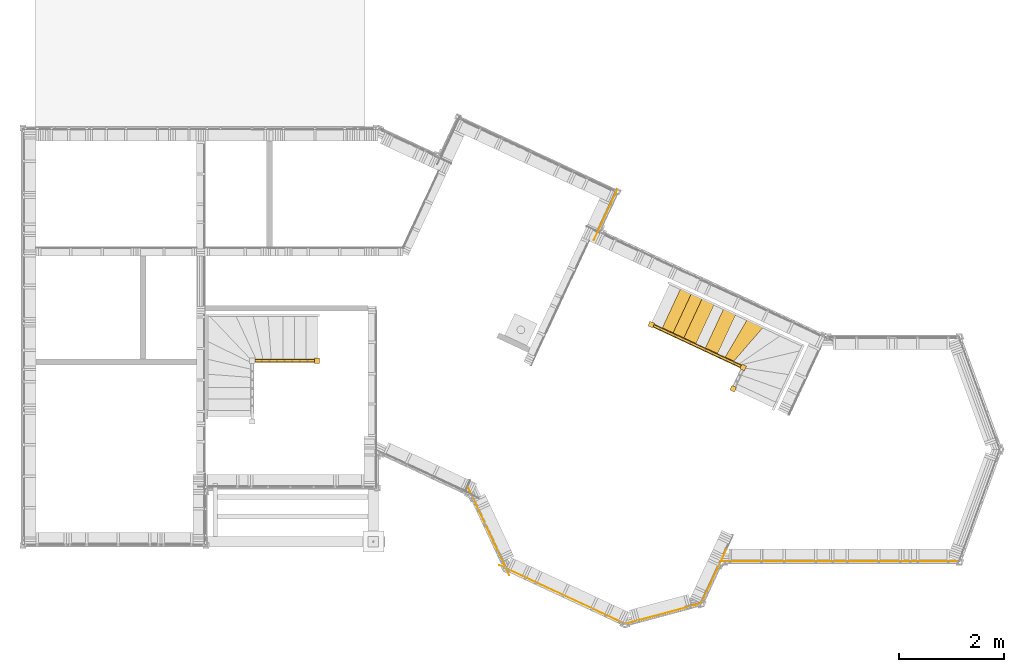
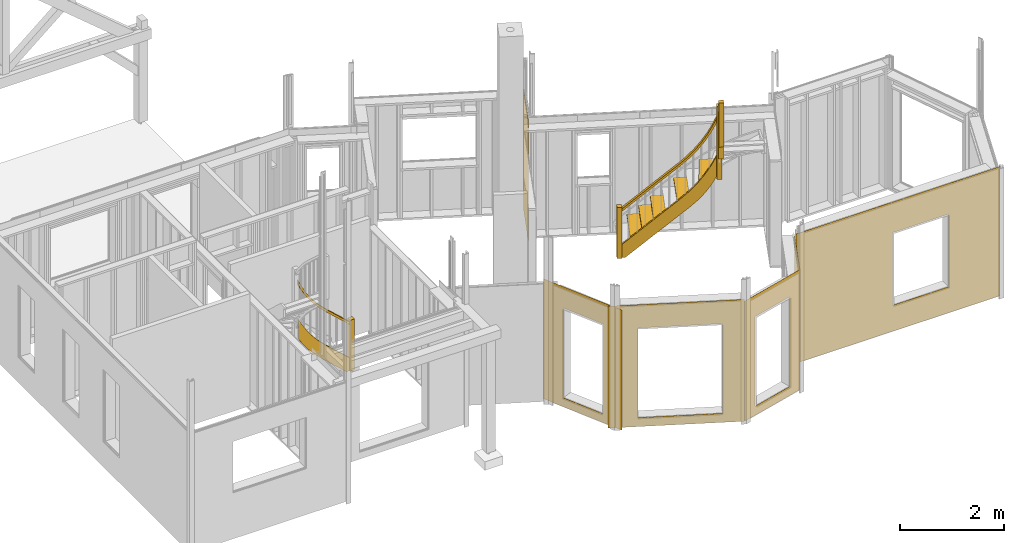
# One storey, part 30 of 34: 19 curtain walls.
"""IFC2X3 building model written with IfcOpenShell, lengths in metres."""

from ifc_helpers import new_model, si_unit, direction, frame, origin_with_axes, place, context, subcontext, project, spatial, faceted_brep, material, element, save


model = new_model("IFC2X3")

# Units and contexts
model_context = context("Model", 3, precision=1e-06, world=origin_with_axes(), true_north=direction((0.0, 1.0, 0.0)))
body_context = subcontext(model_context, "Body", "Model", "MODEL_VIEW")
ifc_project = project(units=[si_unit("LENGTHUNIT", "METRE"), si_unit("AREAUNIT", "SQUARE_METRE"), si_unit("VOLUMEUNIT", "CUBIC_METRE"), si_unit("PLANEANGLEUNIT", "RADIAN")], contexts=[model_context])

# Site, building, storey
site_placement = place(None, origin_with_axes())
site = spatial("IfcSite", under=ifc_project, at=site_placement, CompositionType="ELEMENT")
building_placement = place(site_placement, origin_with_axes())
building = spatial("IfcBuilding", under=site, at=building_placement, Name="Building 1", CompositionType="ELEMENT")
storey_placement = place(building_placement, origin_with_axes())
storey = spatial("IfcBuildingStorey", under=building, at=storey_placement, Name="Rez de chaussée", CompositionType="ELEMENT", Elevation=0.0)

# Curtain walls
ifc_material_1 = material(Name="NH II")
curtain_wall_1_placement = place(storey_placement, frame((13.5018839, 2.964515, 2.6699578), z_axis=(0.0, 0.0, 1.0), x_axis=(-0.9063078, 0.4226183, 0.0)))
element("IfcCurtainWall", 1, at=curtain_wall_1_placement, inside=storey, material=ifc_material_1, Name="Escalier", context=body_context, shape_type="Brep", body=[
    faceted_brep([(-0.0485, 0.0025, 0.0), (-0.0485, 0.0025, 0.3110422), (0.0485, 0.0025, 0.3110422), (0.0485, 0.0025, 0.0), (-0.0485, 0.0485, 0.3110422), (0.0485, 0.0485, 0.3110422), (0.0485, -0.0485, 1.3482562), (-0.0485, -0.0485, 1.3482562), (-0.0485, -0.0485, 0.0), (0.0485, -0.0485, 0.0), (0.0485, 0.0485, 1.3482562), (-0.0485, 0.0485, 1.3482562)], [[[0, 1, 2, 3]], [[1, 4, 5, 2]], [[6, 7, 8, 9]], [[10, 11, 7, 6]], [[0, 3, 9, 8]], [[3, 2, 5, 10, 6, 9]], [[1, 0, 8, 7, 11, 4]], [[5, 4, 11, 10]]]),
])
curtain_wall_2_placement = place(storey_placement, frame((13.7164795, 3.3584628, 3.281232), z_axis=(-0.6046222, 0.28194, -0.7449442), x_axis=(-0.4226183, -0.9063078, 0.0)))
element("IfcCurtainWall", 2, at=curtain_wall_2_placement, inside=storey, material=ifc_material_1, Name="Escalier", context=body_context, shape_type="Brep", body=[
    faceted_brep([(-0.034, 0.1026925, 0.0), (0.034, 0.1026925, 0.0), (-0.034, 0.0255875, 0.086099), (0.034, 0.0255875, 0.086099), (-0.034, 0.0759733, 2.7778893), (-0.034, -0.0970856, 1.2737513), (0.034, 0.0759733, 2.7778893), (0.034, -0.0970856, 1.2737513), (0.034, 0.1152207, 2.7340639), (0.034, -0.0533707, 1.2687219), (-0.034, 0.1152207, 2.7340639), (-0.034, -0.0533707, 1.2687219), (0.034, -0.0401927, 0.3175439), (-0.034, -0.0401927, 0.3175439), (0.034, -0.0856152, 0.5538288), (-0.034, -0.0856152, 0.5538288), (0.034, -0.1103365, 0.7931666), (-0.034, -0.1103365, 0.7931666), (0.034, -0.1141696, 1.0337473), (-0.034, -0.1141696, 1.0337473), (0.034, 0.0350894, 0.2040935), (0.034, -0.0161989, 0.4128849), (0.034, -0.0508525, 0.6250722), (0.034, -0.0686554, 0.8393323), (0.034, -0.0694965, 1.0543291), (-0.034, 0.0350894, 0.2040935), (-0.034, -0.0161989, 0.4128849), (-0.034, -0.0508525, 0.6250722), (-0.034, -0.0686554, 0.8393323), (-0.034, -0.0694965, 1.0543291)], [[[0, 1, 2]], [[2, 1, 3]], [[4, 5, 6]], [[6, 5, 7]], [[8, 9, 10]], [[10, 9, 11]], [[8, 10, 6]], [[6, 10, 4]], [[3, 12, 2]], [[2, 12, 13]], [[12, 14, 13]], [[13, 14, 15]], [[14, 16, 15]], [[15, 16, 17]], [[16, 18, 17]], [[17, 18, 19]], [[18, 7, 19]], [[19, 7, 5]], [[1, 20, 3]], [[3, 20, 12]], [[20, 21, 12]], [[12, 21, 14]], [[21, 22, 14]], [[14, 22, 16]], [[22, 23, 16]], [[16, 23, 18]], [[23, 24, 18]], [[18, 24, 7]], [[24, 9, 7]], [[7, 9, 8]], [[7, 8, 6]], [[0, 2, 25]], [[25, 2, 13]], [[25, 13, 26]], [[26, 13, 15]], [[26, 15, 27]], [[27, 15, 17]], [[27, 17, 28]], [[28, 17, 19]], [[28, 19, 29]], [[29, 19, 5]], [[29, 5, 11]], [[11, 5, 10]], [[5, 4, 10]], [[0, 25, 1]], [[1, 25, 20]], [[25, 26, 20]], [[20, 26, 21]], [[26, 27, 21]], [[21, 27, 22]], [[27, 28, 22]], [[22, 28, 23]], [[28, 29, 23]], [[23, 29, 24]], [[29, 11, 24]], [[24, 11, 9]]]),
])
curtain_wall_3_placement = place(storey_placement, frame((5.5368749, 3.4987176, 0.1757126), z_axis=(-0.6390929, 0.0, 0.7691296), x_axis=(0.0, 1.0, 0.0)))
element("IfcCurtainWall", 3, at=curtain_wall_3_placement, inside=storey, material=ifc_material_1, Name="Escalier", context=body_context, shape_type="Brep", body=[
    faceted_brep([(0.0205, 0.0597896, 0.0422536), (0.0205, 0.0089385, 0.0), (-0.0205, 0.0597896, 0.0422536), (-0.0205, 0.0089385, 0.0), (-0.0205, -0.1873786, 0.236262), (0.0045, -0.0995705, 0.1305874), (0.0205, -0.0995705, 0.1305874), (0.0045, -0.1193824, 0.1544305), (0.0205, -0.1873786, 0.236262), (0.0205, -0.1193824, 0.1544305), (0.0205, -0.0625971, 0.683422), (0.0205, -0.0824089, 0.7072651), (0.0205, -0.1228166, 0.412633), (0.0205, -0.1030047, 0.38879), (0.0205, 0.0285751, 0.2773727), (0.0205, 0.0887977, 0.5481644), (0.0205, 0.048387, 0.2535297), (0.0205, 0.0689859, 0.5720074), (0.0205, 0.162394, 0.7904186), (0.0205, 0.1292008, 0.8427926), (0.0205, 0.1824605, 0.993793), (0.0205, 0.1093889, 0.8666356), (0.0205, -0.0221932, 0.9780509), (0.0205, -0.0870854, 0.9675727), (0.0205, 0.145645, 1.1175128), (0.0205, 0.1870579, 1.1981032), (0.0205, 0.1258331, 1.1413558), (0.0205, -0.005817, 1.2527146), (0.0205, -0.0698263, 1.1348125), (0.0205, -0.0256289, 1.2765576), (0.0205, -0.0637909, 1.302832), (0.0205, 0.1187103, 1.3964934), (0.0205, -0.0690062, 1.470879), (0.0205, -0.0134707, 1.507411), (0.0205, -0.0332826, 1.531254), (0.0205, -0.0420051, 1.0018939), (0.0205, 0.1385222, 1.3726504), (0.0205, 0.1761597, 1.4021744), (0.0205, 0.1498286, 1.604833), (0.0205, 0.108647, 1.6088822), (0.0205, 0.0888351, 1.6327253), (0.0205, -0.0854488, 1.638201), (0.0205, -0.0451543, 1.7421403), (0.0205, 0.0026971, 1.7819015), (0.0205, -0.0649662, 1.7659833), (0.0205, -0.113045, 1.8040487), (0.0205, -0.0171148, 1.8057445), (0.0205, -0.1516714, 1.9676793), (0.0045, -0.0171148, 1.8057445), (0.0045, -0.06497, 1.7659801), (0.0045, 0.0026971, 1.7819015), (0.0045, -0.0451582, 1.7421371), (0.0204893, -0.0451582, 1.7421371), (0.0204893, -0.06497, 1.7659801), (-0.0205, -0.1516714, 1.9676793), (-0.0205, 0.1498286, 1.604833), (0.0045, 0.1028819, 1.6040919), (0.0045, -0.0134707, 1.507411), (0.0045, 0.08307, 1.6279349), (0.0045, -0.0332826, 1.531254), (0.0045, 0.1357021, 1.370307), (0.0045, -0.005817, 1.2527146), (0.0045, 0.1158902, 1.39415), (0.0045, -0.0256289, 1.2765576), (0.0045, 0.1248931, 1.1405747), (0.0045, -0.0420051, 1.0018939), (0.0045, 0.144705, 1.1167316), (0.0045, -0.0221932, 0.9780509), (0.0045, 0.1093889, 0.8666356), (0.0045, 0.1292008, 0.8427926), (0.0045, -0.0625971, 0.683422), (0.0045, -0.0824089, 0.7072651), (0.0045, 0.0689859, 0.5720074), (0.0045, 0.0887977, 0.5481644), (0.0045, -0.1030047, 0.38879), (0.0045, -0.1228166, 0.412633), (0.0045, 0.0285751, 0.2773727), (0.0045, 0.048387, 0.2535297), (-0.0205, -0.0870854, 0.9675727), (-0.0205, 0.162394, 0.7904186), (-0.0205, -0.113045, 1.8040487), (-0.0205, -0.0854488, 1.638201), (-0.0205, -0.0690062, 1.470879), (-0.0205, -0.0637909, 1.302832), (-0.0205, -0.0698263, 1.1348125), (-0.0205, 0.1824605, 0.993793), (-0.0205, 0.1870579, 1.1981032), (-0.0205, 0.1761597, 1.4021744)], [[[0, 1, 2]], [[2, 1, 3]], [[4, 3, 5]], [[5, 3, 1]], [[5, 1, 6]], [[5, 7, 4]], [[4, 7, 8]], [[7, 9, 8]], [[10, 11, 12]], [[12, 11, 8]], [[12, 8, 13]], [[13, 8, 14]], [[13, 14, 15]], [[15, 14, 16]], [[15, 16, 0]], [[0, 16, 6]], [[0, 6, 1]], [[12, 17, 10]], [[10, 17, 18]], [[10, 18, 19]], [[19, 18, 20]], [[19, 20, 21]], [[21, 20, 22]], [[21, 22, 11]], [[11, 22, 23]], [[11, 23, 8]], [[17, 15, 18]], [[18, 15, 0]], [[22, 20, 24]], [[24, 20, 25]], [[24, 25, 26]], [[26, 25, 27]], [[26, 27, 28]], [[28, 27, 29]], [[28, 29, 30]], [[30, 29, 31]], [[30, 31, 32]], [[32, 31, 33]], [[32, 33, 34]], [[22, 35, 23]], [[23, 35, 28]], [[35, 26, 28]], [[27, 25, 36]], [[36, 25, 37]], [[36, 37, 31]], [[31, 37, 38]], [[31, 38, 39]], [[39, 38, 40]], [[32, 34, 41]], [[41, 34, 40]], [[41, 40, 42]], [[42, 40, 43]], [[39, 33, 31]], [[38, 43, 40]], [[42, 44, 41]], [[41, 44, 45]], [[44, 46, 45]], [[45, 46, 47]], [[8, 9, 14]], [[48, 49, 50]], [[50, 49, 51]], [[43, 50, 42]], [[42, 50, 51]], [[46, 44, 48]], [[48, 44, 49]], [[52, 51, 53]], [[53, 51, 49]], [[46, 48, 47]], [[47, 48, 54]], [[48, 50, 54]], [[54, 50, 55]], [[43, 38, 50]], [[50, 38, 55]], [[39, 56, 33]], [[33, 56, 57]], [[40, 34, 58]], [[58, 34, 59]], [[58, 59, 56]], [[56, 59, 57]], [[33, 57, 34]], [[34, 57, 59]], [[40, 58, 39]], [[39, 58, 56]], [[36, 60, 27]], [[27, 60, 61]], [[31, 29, 62]], [[62, 29, 63]], [[62, 63, 60]], [[60, 63, 61]], [[27, 61, 29]], [[29, 61, 63]], [[31, 62, 36]], [[36, 62, 60]], [[26, 35, 64]], [[64, 35, 65]], [[26, 64, 24]], [[24, 64, 66]], [[24, 66, 22]], [[22, 66, 67]], [[64, 65, 66]], [[66, 65, 67]], [[22, 67, 35]], [[35, 67, 65]], [[21, 68, 19]], [[19, 68, 69]], [[10, 19, 70]], [[70, 19, 69]], [[11, 10, 71]], [[71, 10, 70]], [[21, 11, 68]], [[68, 11, 71]], [[70, 69, 71]], [[71, 69, 68]], [[17, 72, 15]], [[15, 72, 73]], [[13, 15, 74]], [[74, 15, 73]], [[74, 73, 75]], [[75, 73, 72]], [[13, 74, 12]], [[12, 74, 75]], [[17, 12, 72]], [[72, 12, 75]], [[14, 76, 16]], [[16, 76, 77]], [[6, 16, 5]], [[5, 16, 77]], [[5, 77, 7]], [[7, 77, 76]], [[14, 9, 76]], [[76, 9, 7]], [[8, 23, 4]], [[4, 23, 78]], [[2, 79, 0]], [[0, 79, 18]], [[54, 80, 47]], [[47, 80, 45]], [[80, 81, 45]], [[45, 81, 41]], [[81, 82, 41]], [[41, 82, 32]], [[82, 83, 32]], [[32, 83, 30]], [[83, 84, 30]], [[30, 84, 28]], [[84, 78, 28]], [[28, 78, 23]], [[3, 4, 2]], [[2, 4, 79]], [[4, 78, 79]], [[79, 78, 85]], [[78, 84, 85]], [[85, 84, 86]], [[84, 83, 86]], [[86, 83, 87]], [[83, 82, 87]], [[87, 82, 55]], [[82, 81, 55]], [[55, 81, 80]], [[55, 80, 54]], [[38, 37, 55]], [[55, 37, 87]], [[37, 25, 87]], [[87, 25, 86]], [[25, 20, 86]], [[86, 20, 85]], [[20, 18, 85]], [[85, 18, 79]]]),
])
curtain_wall_4_placement = place(storey_placement, frame((11.9416568, 4.1860762, 0.17), z_axis=(0.0, 0.0, 1.0), x_axis=(-0.4226183, -0.9063078, 0.0)))
element("IfcCurtainWall", 4, at=curtain_wall_4_placement, inside=storey, material=ifc_material_1, Name="Escalier", context=body_context, shape_type="Brep", body=[
    faceted_brep([(0.0485, -0.0485, 0.0), (0.0485, 0.0485, 0.0), (0.0485, 0.0485, 1.2013738), (0.0485, -0.0485, 1.2013738), (-0.0485, 0.0485, 0.0), (-0.0485, 0.0485, 1.2013738), (-0.0485, -0.0485, 0.0), (-0.0485, -0.0485, 1.2013738)], [[[0, 1, 2, 3]], [[1, 4, 5, 2]], [[1, 0, 6, 4]], [[2, 5, 7, 3]], [[6, 0, 3, 7]], [[4, 6, 7, 5]]]),
])
ifc_material_2 = material(Name="pare-pluie")
curtain_wall_5_placement = place(storey_placement, frame((10.2452564, -0.9535081, -0.06), z_axis=(0.0, 0.0, 1.0), x_axis=(-0.9063078, 0.4226183, 0.0)))
element("IfcCurtainWall", 5, at=curtain_wall_5_placement, inside=storey, material=ifc_material_2, Name="Pare-pluie", context=body_context, shape_type="Brep", body=[
    faceted_brep([(-1.3199484, 0.00045, 0.0), (-1.3210209, -0.00045, 0.0), (-1.3210209, -0.00045, 2.865), (-1.3199484, 0.00045, 2.865), (1.3210209, -0.00045, 0.0), (1.3210209, -0.00045, 2.865), (-0.8929195, -0.00045, 0.212), (-0.8929195, -0.00045, 2.32), (0.7470805, -0.00045, 2.32), (0.7470805, -0.00045, 0.212), (1.3210209, 0.00045, 0.0), (1.3210209, 0.00045, 2.865), (-0.8929195, 0.00045, 0.212), (0.7470805, 0.00045, 0.212), (0.7470805, 0.00045, 2.32), (-0.8929195, 0.00045, 2.32)], [[[0, 1, 2, 3]], [[2, 1, 4, 5], [6, 7, 8, 9]], [[1, 0, 10, 4]], [[4, 10, 11, 5]], [[0, 3, 11, 10], [12, 13, 14, 15]], [[3, 2, 5, 11]], [[9, 8, 14, 13]], [[6, 9, 13, 12]], [[7, 6, 12, 15]], [[8, 7, 15, 14]]]),
])
curtain_wall_6_placement = place(storey_placement, frame((13.0262706, 4.6231489, 0.957644), z_axis=(0.0, 0.0, 1.0), x_axis=(-0.4226183, -0.9063078, 0.0)))
element("IfcCurtainWall", 6, at=curtain_wall_6_placement, inside=storey, material=ifc_material_1, Name="Escalier", context=body_context, shape_type="Brep", body=[
    faceted_brep([(0.0, 0.128111, -0.0155), (0.0, -0.128111, -0.0155), (0.0, -0.128111, 0.0155), (0.0, 0.128111, 0.0155), (0.85, -0.128111, -0.0155), (0.85, 0.128111, -0.0155), (0.85, 0.128111, 0.0155), (0.85, -0.128111, 0.0155)], [[[0, 1, 2, 3]], [[4, 5, 6, 7]], [[1, 4, 7, 2]], [[2, 7, 6, 3]], [[0, 5, 4, 1]], [[5, 0, 3, 6]]]),
])
curtain_wall_7_placement = place(storey_placement, frame((13.1321259, -0.6112048, -0.06), z_axis=(0.0, 0.0, 1.0), x_axis=(-0.4226183, -0.9063078, 0.0)))
element("IfcCurtainWall", 7, at=curtain_wall_7_placement, inside=storey, material=ifc_material_2, Name="Pare-pluie", context=body_context, shape_type="Brep", body=[
    faceted_brep([(0.5638899, 0.00045, 0.0), (0.5638899, 0.00045, 2.823), (0.5646451, -0.00045, 2.823), (0.5646451, -0.00045, 0.0), (-0.5646451, 0.00045, 2.823), (-0.5646451, -0.00045, 2.823), (-0.5646451, 0.00045, 0.0), (-0.5646451, -0.00045, 0.0)], [[[0, 1, 2, 3]], [[2, 1, 4, 5]], [[1, 0, 6, 4]], [[0, 3, 7, 6]], [[3, 2, 5, 7]], [[5, 4, 6, 7]]]),
])
curtain_wall_8_placement = place(storey_placement, frame((5.5785, 3.4987176, 0.17), z_axis=(0.0, 0.0, 1.0), x_axis=(0.0, 1.0, 0.0)))
element("IfcCurtainWall", 8, at=curtain_wall_8_placement, inside=storey, material=ifc_material_1, Name="Escalier", context=body_context, shape_type="Brep", body=[
    faceted_brep([(0.0485, -0.0485, 0.0), (0.0485, 0.0485, 0.0), (0.0485, 0.0485, 1.2029516), (0.0485, -0.0485, 1.2029516), (-0.0485, 0.0485, 0.0), (-0.0485, 0.0485, 1.2029516), (-0.0485, -0.0485, 0.0), (-0.0485, -0.0485, 1.2029516)], [[[0, 1, 2, 3]], [[1, 4, 5, 2]], [[1, 0, 6, 4]], [[2, 5, 7, 3]], [[6, 0, 3, 7]], [[4, 6, 7, 5]]]),
])
curtain_wall_9_placement = place(storey_placement, frame((15.5382757, -0.32077, -0.06), z_axis=(0.0, 0.0, 1.0), x_axis=(-1.0, 0.0, 0.0)))
element("IfcCurtainWall", 9, at=curtain_wall_9_placement, inside=storey, material=ifc_material_2, Name="Pare-pluie", context=body_context, shape_type="Brep", body=[
    faceted_brep([(-2.2654725, -0.00045, 3.04), (-2.2651449, 0.00045, 3.04), (-2.2651449, 0.00045, 0.0), (-2.2654725, -0.00045, 0.0), (2.2654725, 0.00045, 3.04), (2.2654725, 0.00045, 0.0), (-1.1222608, 0.00045, 0.612), (0.1177392, 0.00045, 0.612), (0.1177392, 0.00045, 2.32), (-1.1222608, 0.00045, 2.32), (2.2654725, -0.00045, 3.04), (2.2654725, -0.00045, 0.0), (-1.1222608, -0.00045, 0.612), (-1.1222608, -0.00045, 2.32), (0.1177392, -0.00045, 2.32), (0.1177392, -0.00045, 0.612)], [[[0, 1, 2, 3]], [[2, 1, 4, 5], [6, 7, 8, 9]], [[1, 0, 10, 4]], [[0, 3, 11, 10], [12, 13, 14, 15]], [[3, 2, 5, 11]], [[11, 5, 4, 10]], [[15, 14, 8, 7]], [[12, 15, 7, 6]], [[13, 12, 6, 9]], [[14, 13, 9, 8]]]),
])
curtain_wall_10_placement = place(storey_placement, frame((13.4363214, 4.4319391, 1.359216), z_axis=(0.0, 0.0, 1.0), x_axis=(-0.4226183, -0.9063078, 0.0)))
element("IfcCurtainWall", 10, at=curtain_wall_10_placement, inside=storey, material=ifc_material_1, Name="Escalier", context=body_context, shape_type="Brep", body=[
    faceted_brep([(0.0, 0.12811, -0.0155), (0.0, -0.12811, -0.0155), (0.0, -0.12811, 0.0155), (0.0, 0.12811, 0.0155), (0.85, -0.12811, -0.0155), (0.85, 0.12811, -0.0155), (0.85, 0.12811, 0.0155), (0.85, -0.12811, 0.0155)], [[[0, 1, 2, 3]], [[4, 5, 6, 7]], [[1, 4, 7, 2]], [[2, 7, 6, 3]], [[0, 5, 4, 1]], [[5, 0, 3, 6]]]),
])
curtain_wall_11_placement = place(storey_placement, frame((13.9271053, 4.2204391, 1.760788), z_axis=(0.0, 0.0, 1.0), x_axis=(-0.506852, -0.8620331, 0.0)))
element("IfcCurtainWall", 11, at=curtain_wall_11_placement, inside=storey, material=ifc_material_1, Name="Escalier", context=body_context, shape_type="Brep", body=[
    faceted_brep([(0.86886, 0.0084593, -0.0155), (0.86886, 0.0084593, 0.0155), (0.8854694, -0.1654878, 0.0155), (0.8854694, -0.1654878, -0.0155), (0.0159276, 0.1670087, 0.0155), (0.0, 0.1654878, 0.0155), (0.0317485, -0.1670087, 0.0155), (0.0477898, -0.1670087, 0.0155), (0.8695419, -0.1670087, 0.0155), (0.0477898, -0.1670087, -0.0155), (0.0317485, -0.1670087, -0.0155), (0.047821, -0.1670057, 0.0155), (0.0, 0.1654878, -0.0155), (0.0159276, 0.1670087, -0.0155), (0.8695419, -0.1670087, -0.0155), (0.047821, -0.1670057, -0.0155)], [[[0, 1, 2, 3]], [[1, 4, 5, 6, 7, 8, 2]], [[9, 7, 6, 10]], [[7, 9, 11]], [[10, 6, 5, 12]], [[13, 12, 5, 4]], [[14, 3, 2, 8]], [[15, 14, 8, 11]], [[13, 0, 3, 14, 15, 10, 12]], [[0, 13, 4, 1]]]),
])
curtain_wall_12_placement = place(storey_placement, frame((5.4971274, 3.4987176, 1.2359951), z_axis=(-0.6390929, 0.0, 0.7691296), x_axis=(0.0, 1.0, 0.0)))
element("IfcCurtainWall", 12, at=curtain_wall_12_placement, inside=storey, material=ifc_material_1, Name="Escalier", context=body_context, shape_type="Brep", body=[
    faceted_brep([(-0.034, -0.0779608, 1.8167772), (0.034, -0.0779608, 1.8167772), (-0.034, -0.0070338, 1.7314186), (0.034, -0.0070338, 1.7314186), (-0.034, -0.04274, 0.0), (-0.034, 0.057557, 0.7313062), (0.034, -0.04274, 0.0), (0.034, 0.057557, 0.7313062), (0.034, -0.0808566, 0.0458722), (0.034, 0.0139628, 0.737286), (-0.034, -0.0808566, 0.0458722), (-0.034, 0.0139628, 0.737286), (0.034, 0.0315929, 1.567787), (-0.034, 0.0315929, 1.567787), (0.034, 0.0591897, 1.4019384), (-0.034, 0.0591897, 1.4019384), (0.034, 0.075633, 1.2346156), (-0.034, 0.075633, 1.2346156), (0.034, 0.0808491, 1.0665676), (-0.034, 0.0808491, 1.0665676), (0.034, 0.0748148, 0.898547), (-0.034, 0.0748148, 0.898547), (0.034, -0.029534, 1.6413314), (0.034, 0.0058344, 1.4627944), (0.034, 0.0279521, 1.2821367), (0.034, 0.0366989, 1.1003404), (0.034, 0.0320274, 0.9183938), (-0.034, -0.029534, 1.6413314), (-0.034, 0.0058344, 1.4627944), (-0.034, 0.0279521, 1.2821367), (-0.034, 0.0366989, 1.1003404), (-0.034, 0.0320274, 0.9183938)], [[[0, 1, 2]], [[2, 1, 3]], [[4, 5, 6]], [[6, 5, 7]], [[8, 9, 10]], [[10, 9, 11]], [[8, 10, 6]], [[6, 10, 4]], [[3, 12, 2]], [[2, 12, 13]], [[12, 14, 13]], [[13, 14, 15]], [[14, 16, 15]], [[15, 16, 17]], [[16, 18, 17]], [[17, 18, 19]], [[18, 20, 19]], [[19, 20, 21]], [[20, 7, 21]], [[21, 7, 5]], [[1, 22, 3]], [[3, 22, 12]], [[22, 23, 12]], [[12, 23, 14]], [[23, 24, 14]], [[14, 24, 16]], [[24, 25, 16]], [[16, 25, 18]], [[25, 26, 18]], [[18, 26, 20]], [[26, 9, 20]], [[20, 9, 7]], [[9, 8, 7]], [[7, 8, 6]], [[0, 2, 27]], [[27, 2, 13]], [[27, 13, 28]], [[28, 13, 15]], [[28, 15, 29]], [[29, 15, 17]], [[29, 17, 30]], [[30, 17, 19]], [[30, 19, 31]], [[31, 19, 21]], [[31, 21, 11]], [[11, 21, 5]], [[11, 5, 10]], [[10, 5, 4]], [[0, 27, 1]], [[1, 27, 22]], [[27, 28, 22]], [[22, 28, 23]], [[28, 29, 23]], [[23, 29, 24]], [[29, 30, 24]], [[24, 30, 25]], [[30, 31, 25]], [[25, 31, 26]], [[31, 11, 26]], [[26, 11, 9]]]),
])
curtain_wall_13_placement = place(storey_placement, frame((12.1680099, -1.3175071, -0.06), z_axis=(0.0, 0.0, 1.0), x_axis=(-0.9659258, -0.258819, 0.0)))
element("IfcCurtainWall", 13, at=curtain_wall_13_placement, inside=storey, material=ifc_material_2, Name="Pare-pluie", context=body_context, shape_type="Brep", body=[
    faceted_brep([(-0.7500222, 0.00045, 0.0), (-0.7507774, -0.00045, 0.0), (-0.7507774, -0.00045, 2.823), (-0.7500222, 0.00045, 2.823), (0.7507774, -0.00045, 0.0), (0.7507774, -0.00045, 2.823), (-0.4700399, -0.00045, 0.212), (-0.4700399, -0.00045, 2.32), (0.4699601, -0.00045, 2.32), (0.4699601, -0.00045, 0.212), (0.7497048, 0.00045, 0.0), (0.7497048, 0.00045, 2.823), (0.4699601, 0.00045, 2.32), (-0.4700399, 0.00045, 2.32), (-0.4700399, 0.00045, 0.212), (0.4699601, 0.00045, 0.212)], [[[0, 1, 2, 3]], [[2, 1, 4, 5], [6, 7, 8, 9]], [[1, 0, 10, 4]], [[5, 4, 10, 11]], [[0, 3, 11, 10], [12, 13, 14, 15]], [[9, 8, 12, 15]], [[6, 9, 15, 14]], [[7, 6, 14, 13]], [[8, 7, 13, 12]], [[3, 2, 5, 11]]]),
])
curtain_wall_14_placement = place(storey_placement, frame((12.6162139, 4.8143615, 0.556072), z_axis=(0.0, 0.0, 1.0), x_axis=(-0.4226183, -0.9063078, 0.0)))
element("IfcCurtainWall", 14, at=curtain_wall_14_placement, inside=storey, material=ifc_material_1, Name="Escalier", context=body_context, shape_type="Brep", body=[
    faceted_brep([(0.0, 0.12811, -0.0155), (0.0, -0.12811, -0.0155), (0.0, -0.128111, 0.0155), (0.0, 0.1281085, 0.0155), (0.85, -0.1281085, -0.0155), (0.85, 0.12811, -0.0155), (0.85, 0.1281085, 0.0155), (0.85, -0.1281085, 0.0155)], [[[0, 1, 2, 3]], [[4, 5, 6, 7]], [[1, 4, 7, 2]], [[2, 7, 6, 3]], [[0, 5, 4, 1]], [[5, 0, 3, 6]]]),
])
curtain_wall_15_placement = place(storey_placement, frame((12.8212398, 4.7187564, 0.756858), z_axis=(0.0, 0.0, 1.0), x_axis=(-0.4226183, -0.9063078, 0.0)))
element("IfcCurtainWall", 15, at=curtain_wall_15_placement, inside=storey, material=ifc_material_1, Name="Escalier", context=body_context, shape_type="Brep", body=[
    faceted_brep([(0.0, 0.1281075, -0.0155), (0.0, -0.1281075, -0.0155), (0.0, -0.1281075, 0.0155), (0.0, 0.1281085, 0.0155), (0.85, -0.128111, -0.0155), (0.85, 0.1281075, -0.0155), (0.85, 0.1281085, 0.0155), (0.85, -0.128111, 0.0155)], [[[0, 1, 2, 3]], [[4, 5, 6, 7]], [[1, 4, 7, 2]], [[2, 7, 6, 3]], [[0, 5, 4, 1]], [[5, 0, 3, 6]]]),
])
curtain_wall_16_placement = place(storey_placement, frame((13.7687396, 3.3340936, 2.3263352), z_axis=(-0.6046222, 0.28194, -0.7449442), x_axis=(-0.4226183, -0.9063078, 0.0)))
element("IfcCurtainWall", 16, at=curtain_wall_16_placement, inside=storey, material=ifc_material_1, Name="Escalier", context=body_context, shape_type="Brep", body=[
    faceted_brep([(-0.0205, 0.0271011, 2.9188965), (-0.0205, -0.0236936, 2.8734078), (0.0205, 0.0271011, 2.9188965), (0.0205, -0.0236936, 2.8734078), (-0.0205, -0.2171122, 1.192336), (0.0205, -0.2171122, 1.192336), (-0.0205, 0.1403699, 2.7924154), (-0.0205, -0.0080379, 2.6595104), (-0.0205, -0.0426095, 2.3590186), (-0.0205, 0.012643, 2.6364171), (-0.0205, 0.1482579, 2.5299478), (-0.0205, 0.2304817, 2.6917923), (-0.0205, 0.1689388, 2.5068545), (-0.0205, 0.1343658, 2.2063614), (-0.0205, 0.1136848, 2.2294547), (-0.0205, 0.1610508, 2.7693221), (-0.0205, 0.099792, 1.9058676), (-0.0205, 0.0574246, 1.1876522), (-0.0205, 0.0652189, 1.6053745), (-0.0205, 0.0306473, 1.3048827), (-0.0205, 0.0099664, 1.327976), (-0.0205, -0.1658054, 0.85942), (-0.0205, 0.0403406, 0.9476483), (-0.0205, -0.0300866, 0.7530437), (-0.0205, 0.0441738, 0.7070676), (-0.0205, -0.0094057, 0.7299504), (-0.0205, -0.0064781, 0.5046545), (-0.0205, -0.1429903, 0.6103202), (-0.0205, -0.1913466, 0.561598), (-0.0205, -0.1636712, 0.6334135), (-0.0205, -0.2217397, 0.7705756), (-0.0205, 0.0688951, 0.4677298), (-0.0205, 0.0142029, 0.4815613), (-0.0205, 0.1280242, 0.0860434), (-0.0205, 0.000892, 0.2001093), (-0.0205, 0.1143176, 0.2314449), (-0.0205, 0.066909, 0.25923), (-0.0205, 0.046228, 0.2823233), (-0.0205, -0.093007, 0.3855506), (-0.0205, 0.1487051, 0.0629501), (-0.0205, 0.1800977, 0.0), (-0.0205, 0.1348417, 0.0505349), (-0.0205, 0.1141608, 0.0736282), (-0.0205, -0.0197889, 0.2232025), (-0.0205, -0.1395058, 0.3568839), (-0.0205, -0.1136879, 0.4086439), (-0.0205, -0.1864863, 0.8825133), (-0.0205, -0.230359, 0.9815757), (-0.0205, -0.0246126, 1.0274775), (-0.0205, -0.1602223, 1.1339515), (-0.0205, -0.1809032, 1.1570448), (-0.0205, -0.1256507, 1.4344433), (-0.0205, -0.077181, 2.0585268), (-0.0205, -0.1117601, 1.7580283), (-0.0205, -0.1463316, 1.4575366), (-0.0205, -0.0910791, 1.7349351), (-0.0205, 0.044538, 1.6284678), (-0.0205, -0.0039317, 1.0043843), (-0.0205, 0.079111, 1.9289609), (-0.0205, -0.0565001, 2.0354335), (-0.0205, -0.0219286, 2.3359253), (-0.0045, 0.1141608, 0.0736282), (-0.0045, 0.1280242, 0.0860434), (-0.0045, 0.1487051, 0.0629501), (-0.0045, 0.1348417, 0.0505349), (-0.0045, -0.0197889, 0.2232025), (-0.0045, 0.046228, 0.2823233), (-0.0045, 0.000892, 0.2001093), (-0.0045, 0.066909, 0.25923), (0.0205, 0.1800977, 0.0), (0.0205, -0.1395058, 0.3568839), (-0.0045, -0.1066343, 0.4149607), (-0.0045, -0.0064781, 0.5046545), (-0.0045, -0.0859534, 0.3918674), (-0.0045, 0.0142029, 0.4815613), (-0.0045, -0.1602569, 0.6364711), (-0.0045, -0.0300866, 0.7530437), (-0.0045, -0.139576, 0.6133779), (-0.0045, -0.0094057, 0.7299504), (-0.0045, -0.1853482, 0.8835325), (-0.0045, -0.0246126, 1.0274775), (-0.0045, -0.1646673, 0.8604392), (-0.0045, -0.0039317, 1.0043843), (-0.0045, -0.1809032, 1.1570448), (-0.0045, -0.1602223, 1.1339515), (-0.0045, 0.0306473, 1.3048827), (-0.0045, 0.0099664, 1.327976), (-0.0045, -0.1463316, 1.4575366), (-0.0045, -0.1256507, 1.4344433), (-0.0045, 0.0652189, 1.6053745), (-0.0045, 0.044538, 1.6284678), (-0.0045, -0.1117601, 1.7580283), (-0.0045, -0.0910791, 1.7349351), (-0.0045, 0.099792, 1.9058676), (-0.0045, 0.079111, 1.9289609), (-0.0045, -0.077181, 2.0585268), (-0.0045, -0.0565001, 2.0354335), (-0.0045, 0.1343658, 2.2063614), (-0.0045, 0.1136848, 2.2294547), (-0.0045, -0.0426095, 2.3590186), (-0.0045, -0.0219286, 2.3359253), (-0.0045, 0.1689388, 2.5068545), (-0.0045, 0.1482579, 2.5299478), (-0.0045, -0.0080379, 2.6595104), (-0.0045, 0.012643, 2.6364171), (-0.0045, 0.1610508, 2.7693221), (-0.0045, 0.1403699, 2.7924154), (0.0205, 0.2304817, 2.6917923), (0.0205, 0.0574246, 1.1876522), (0.0205, 0.1143176, 0.2314449), (0.0205, 0.0688951, 0.4677298), (0.0205, 0.0441738, 0.7070676), (0.0205, 0.0403406, 0.9476483), (0.0205, -0.230359, 0.9815757), (0.0205, -0.2217397, 0.7705756), (0.0205, -0.1913466, 0.561598)], [[[0, 1, 2]], [[2, 1, 3]], [[1, 4, 3]], [[3, 4, 5]], [[0, 6, 1]], [[1, 6, 7]], [[1, 7, 8]], [[8, 7, 9]], [[8, 9, 10]], [[10, 9, 11]], [[10, 11, 12]], [[12, 11, 13]], [[12, 13, 14]], [[9, 15, 11]], [[13, 11, 16]], [[16, 11, 17]], [[16, 17, 18]], [[18, 17, 19]], [[18, 19, 20]], [[21, 22, 23]], [[23, 22, 24]], [[23, 24, 25]], [[25, 24, 26]], [[25, 26, 27]], [[27, 26, 28]], [[27, 28, 29]], [[29, 28, 30]], [[29, 30, 23]], [[23, 30, 21]], [[24, 31, 26]], [[26, 31, 32]], [[33, 34, 35]], [[35, 34, 36]], [[35, 36, 31]], [[31, 36, 37]], [[31, 37, 32]], [[32, 37, 38]], [[33, 35, 39]], [[39, 35, 40]], [[39, 40, 41]], [[33, 42, 34]], [[37, 43, 38]], [[38, 43, 44]], [[38, 44, 45]], [[45, 44, 28]], [[45, 28, 26]], [[21, 30, 46]], [[46, 30, 47]], [[46, 47, 48]], [[48, 47, 49]], [[48, 49, 17]], [[17, 49, 19]], [[49, 47, 50]], [[50, 47, 4]], [[50, 4, 20]], [[20, 4, 51]], [[20, 51, 18]], [[1, 52, 4]], [[4, 52, 53]], [[4, 53, 54]], [[54, 53, 55]], [[54, 55, 56]], [[56, 55, 16]], [[56, 16, 18]], [[21, 57, 22]], [[22, 57, 17]], [[57, 48, 17]], [[54, 51, 4]], [[16, 58, 13]], [[13, 58, 59]], [[58, 53, 59]], [[59, 53, 52]], [[12, 14, 60]], [[60, 14, 52]], [[60, 52, 8]], [[8, 52, 1]], [[42, 33, 61]], [[61, 33, 62]], [[62, 33, 63]], [[63, 33, 39]], [[61, 62, 64]], [[64, 62, 63]], [[39, 41, 63]], [[63, 41, 64]], [[65, 66, 67]], [[67, 66, 68]], [[67, 68, 34]], [[34, 68, 36]], [[66, 37, 68]], [[68, 37, 36]], [[43, 37, 65]], [[65, 37, 66]], [[41, 40, 64]], [[64, 40, 69]], [[64, 69, 61]], [[61, 69, 67]], [[61, 67, 34]], [[69, 70, 67]], [[67, 70, 65]], [[70, 44, 65]], [[65, 44, 43]], [[34, 42, 61]], [[45, 26, 71]], [[71, 26, 72]], [[45, 71, 38]], [[38, 71, 73]], [[71, 72, 73]], [[73, 72, 74]], [[38, 73, 32]], [[32, 73, 74]], [[72, 26, 74]], [[74, 26, 32]], [[29, 23, 75]], [[75, 23, 76]], [[29, 75, 27]], [[27, 75, 77]], [[75, 76, 77]], [[77, 76, 78]], [[27, 77, 25]], [[25, 77, 78]], [[76, 23, 78]], [[78, 23, 25]], [[46, 48, 79]], [[79, 48, 80]], [[46, 79, 21]], [[21, 79, 81]], [[21, 81, 57]], [[57, 81, 82]], [[79, 80, 81]], [[81, 80, 82]], [[57, 82, 48]], [[48, 82, 80]], [[50, 83, 49]], [[49, 83, 84]], [[19, 49, 85]], [[85, 49, 84]], [[83, 86, 84]], [[84, 86, 85]], [[19, 85, 20]], [[20, 85, 86]], [[50, 20, 83]], [[83, 20, 86]], [[54, 87, 51]], [[51, 87, 88]], [[18, 51, 89]], [[89, 51, 88]], [[87, 90, 88]], [[88, 90, 89]], [[18, 89, 56]], [[56, 89, 90]], [[54, 56, 87]], [[87, 56, 90]], [[53, 91, 55]], [[55, 91, 92]], [[16, 55, 93]], [[93, 55, 92]], [[91, 94, 92]], [[92, 94, 93]], [[16, 93, 58]], [[58, 93, 94]], [[53, 58, 91]], [[91, 58, 94]], [[52, 95, 59]], [[59, 95, 96]], [[13, 59, 97]], [[97, 59, 96]], [[95, 98, 96]], [[96, 98, 97]], [[13, 97, 14]], [[14, 97, 98]], [[52, 14, 95]], [[95, 14, 98]], [[8, 99, 60]], [[60, 99, 100]], [[12, 60, 101]], [[101, 60, 100]], [[99, 102, 100]], [[100, 102, 101]], [[12, 101, 10]], [[10, 101, 102]], [[8, 10, 99]], [[99, 10, 102]], [[7, 103, 9]], [[9, 103, 104]], [[15, 9, 105]], [[105, 9, 104]], [[105, 104, 106]], [[106, 104, 103]], [[7, 6, 103]], [[103, 6, 106]], [[107, 108, 11]], [[11, 108, 17]], [[6, 0, 106]], [[106, 0, 2]], [[106, 2, 107]], [[106, 107, 105]], [[105, 107, 11]], [[105, 11, 15]], [[40, 35, 69]], [[69, 35, 109]], [[35, 31, 109]], [[109, 31, 110]], [[31, 24, 110]], [[110, 24, 111]], [[24, 22, 111]], [[111, 22, 112]], [[22, 17, 112]], [[112, 17, 108]], [[2, 3, 107]], [[107, 3, 5]], [[107, 5, 108]], [[108, 5, 113]], [[108, 113, 112]], [[112, 113, 114]], [[112, 114, 111]], [[111, 114, 115]], [[111, 115, 110]], [[110, 115, 70]], [[110, 70, 109]], [[109, 70, 69]], [[70, 115, 44]], [[44, 115, 28]], [[115, 114, 28]], [[28, 114, 30]], [[114, 113, 30]], [[30, 113, 47]], [[113, 5, 47]], [[47, 5, 4]]]),
])
curtain_wall_17_placement = place(storey_placement, frame((13.6911027, 3.3702962, 1.9114085), z_axis=(0.0, 0.0, 1.0), x_axis=(-0.4226183, -0.9063078, 0.0)))
element("IfcCurtainWall", 17, at=curtain_wall_17_placement, inside=storey, material=ifc_material_1, Name="Escalier", context=body_context, shape_type="Brep", body=[
    faceted_brep([(-0.0485, 0.0485, 1.7142751), (0.0485, 0.0485, 1.7142751), (0.0485, 0.0485, 0.0), (-0.0485, 0.0485, 0.0), (0.0485, -0.0485, 1.7142751), (0.0485, -0.0485, 0.0), (-0.0485, -0.0485, 1.7142751), (-0.0485, -0.0485, 0.0)], [[[0, 1, 2, 3]], [[1, 4, 5, 2]], [[4, 6, 7, 5]], [[6, 0, 3, 7]], [[1, 0, 6, 4]], [[7, 3, 2, 5]]]),
])
curtain_wall_18_placement = place(storey_placement, frame((11.0729436, 6.2733841, -0.06), z_axis=(0.0, 0.0, 1.0), x_axis=(-0.9063078, 0.4226183, 0.0)))
element("IfcCurtainWall", 18, at=curtain_wall_18_placement, inside=storey, material=ifc_material_2, Name="Pare-pluie", context=body_context, shape_type="Brep", body=[
    faceted_brep([(0.00045, -0.5301089, 0.0), (-0.00045, -0.5301089, 0.0), (-0.00045, 0.5301089, 0.0), (0.00045, 0.5301089, 0.0), (-0.00045, -0.5301089, 2.865), (-0.00045, 0.5301089, 2.865), (0.00045, -0.5301089, 2.865), (0.00045, 0.5301089, 2.865)], [[[0, 1, 2, 3]], [[2, 1, 4, 5]], [[1, 0, 6, 4]], [[0, 3, 7, 6]], [[4, 6, 7, 5]], [[3, 2, 5, 7]]]),
])
curtain_wall_19_placement = place(storey_placement, frame((8.8514082, 0.2475795, -0.06), z_axis=(0.0, 0.0, 1.0), x_axis=(-0.4226183, 0.9063078, 0.0)))
element("IfcCurtainWall", 19, at=curtain_wall_19_placement, inside=storey, material=ifc_material_2, Name="Pare-pluie", context=body_context, shape_type="Brep", body=[
    faceted_brep([(0.9224997, -0.00045, 2.823), (-0.9224997, -0.00045, 2.823), (-0.9224997, -0.00045, 0.0), (0.9224997, -0.00045, 0.0), (-0.4960865, -0.00045, 0.212), (-0.4960865, -0.00045, 2.32), (0.4439135, -0.00045, 2.32), (0.4439135, -0.00045, 0.212), (-0.9224997, 0.00045, 0.0), (0.9224997, 0.00045, 0.0), (-0.9224997, 0.00045, 2.823), (0.9224997, 0.00045, 2.823), (0.4439135, 0.00045, 2.32), (-0.4960865, 0.00045, 2.32), (-0.4960865, 0.00045, 0.212), (0.4439135, 0.00045, 0.212)], [[[0, 1, 2, 3], [4, 5, 6, 7]], [[8, 9, 3, 2]], [[10, 11, 9, 8], [12, 13, 14, 15]], [[11, 0, 3, 9]], [[7, 6, 12, 15]], [[4, 7, 15, 14]], [[5, 4, 14, 13]], [[6, 5, 13, 12]], [[11, 10, 1, 0]], [[1, 10, 8, 2]]]),
])

save(model, "model.ifc")
